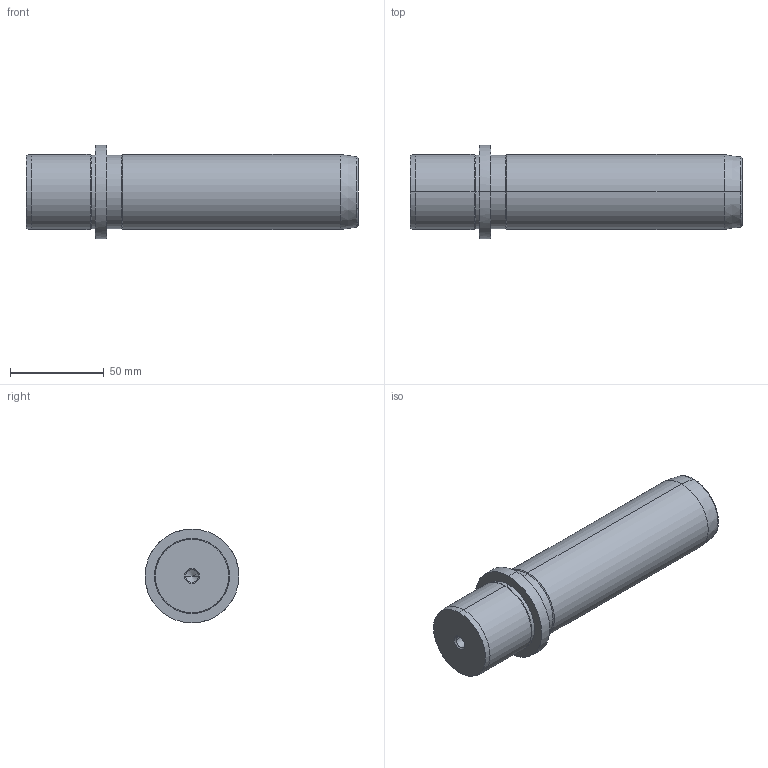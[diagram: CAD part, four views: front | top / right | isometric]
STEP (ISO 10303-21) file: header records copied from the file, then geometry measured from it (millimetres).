
FILE_DESCRIPTION(('CATIA V5 STEP Exchange'),'2;1');
FILE_NAME('C:\Users\Utente\Desktop\IO LAVORO\3D X SITO CF\X SITO\718\718-40x140.stp','2021-01-02T12:48:29+00:00',('none'),('none'),'CATIA Version 5 Release 20 GA (IN-10)','CATIA V5 STEP AP203','none');
FILE_SCHEMA(('CONFIG_CONTROL_DESIGN'));
Length unit declared in the file: millimetre
Products named in the file (1): 718-40x140
Bounding box: 177 x 50 x 50 mm (x, y, z)
Volume: 223406.6 mm3; surface area: 27208.7 mm2
Topology: 1 solids, 1 shells, 36 faces, 100 edges, 66 vertices
Faces by surface type: cone 16, cylinder 14, plane 4, torus 2
Entity records: 1291 total; most frequent: CARTESIAN_POINT 362, ORIENTED_EDGE 192, DIRECTION 157, EDGE_CURVE 96, AXIS2_PLACEMENT_3D 92, VERTEX_POINT 66, CIRCLE 55, EDGE_LOOP 40
